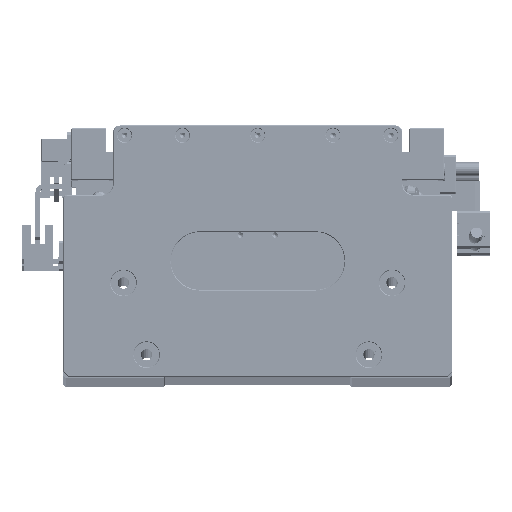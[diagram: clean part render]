
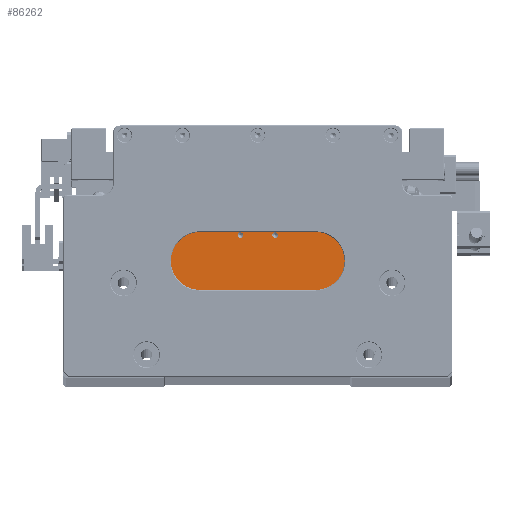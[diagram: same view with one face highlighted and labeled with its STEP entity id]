
A CAD part, top view. The second image highlights one B-rep face of the part: STEP entity #86262.
In plain terms, the highlighted planar face has unit normal (0, 0, 1).
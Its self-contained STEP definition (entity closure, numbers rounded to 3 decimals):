
#120 = CIRCLE ( 'NONE', #56360, 1.25 ) ;
#605 = VECTOR ( 'NONE', #124179, 1000. ) ;
#1725 = CARTESIAN_POINT ( 'NONE',  ( -7.5, -8., 125. ) ) ;
#2290 = CARTESIAN_POINT ( 'NONE',  ( 7.5, -8., 125. ) ) ;
#3051 = VECTOR ( 'NONE', #94974, 1000. ) ;
#3312 = VECTOR ( 'NONE', #62358, 1000. ) ;
#5899 = ORIENTED_EDGE ( 'NONE', *, *, #47204, .T. ) ;
#6287 = LINE ( 'NONE', #21202, #28946 ) ;
#7597 = ORIENTED_EDGE ( 'NONE', *, *, #22731, .T. ) ;
#8121 = AXIS2_PLACEMENT_3D ( 'NONE', #35578, #103109, #45264 ) ;
#10253 = LINE ( 'NONE', #32824, #61686 ) ;
#11376 = DIRECTION ( 'NONE',  ( 1., 0., 0. ) ) ;
#11957 = DIRECTION ( 'NONE',  ( 1., 0., 0. ) ) ;
#13341 = DIRECTION ( 'NONE',  ( -1., 0., 0. ) ) ;
#15612 = EDGE_CURVE ( 'NONE', #67199, #62093, #80677, .T. ) ;
#17113 = CARTESIAN_POINT ( 'NONE',  ( 33.5, 0., 125. ) ) ;
#17719 = CARTESIAN_POINT ( 'NONE',  ( 45., -40.2, 125. ) ) ;
#18581 = EDGE_CURVE ( 'NONE', #102344, #53130, #96677, .T. ) ;
#19438 = EDGE_LOOP ( 'NONE', ( #22868, #7597 ) ) ;
#19472 = VERTEX_POINT ( 'NONE', #28406 ) ;
#20161 = CARTESIAN_POINT ( 'NONE',  ( 0., 0., 125. ) ) ;
#20364 = VERTEX_POINT ( 'NONE', #110168 ) ;
#20408 = CARTESIAN_POINT ( 'NONE',  ( 33.5, 0., 125. ) ) ;
#21202 = CARTESIAN_POINT ( 'NONE',  ( -45., 0., 125. ) ) ;
#22731 = EDGE_CURVE ( 'NONE', #94127, #109042, #120, .T. ) ;
#22868 = ORIENTED_EDGE ( 'NONE', *, *, #91889, .T. ) ;
#23315 = CARTESIAN_POINT ( 'NONE',  ( 33.5, -8., 125. ) ) ;
#25307 = EDGE_LOOP ( 'NONE', ( #101523, #80724, #89405, #58498, #95656, #52148, #68981, #81650 ) ) ;
#26488 = DIRECTION ( 'NONE',  ( 0., 1., 0. ) ) ;
#27216 = DIRECTION ( 'NONE',  ( 0., 0., -1. ) ) ;
#27759 = VERTEX_POINT ( 'NONE', #23315 ) ;
#28406 = CARTESIAN_POINT ( 'NONE',  ( 8.75, -8., 125. ) ) ;
#28946 = VECTOR ( 'NONE', #88707, 1000. ) ;
#32824 = CARTESIAN_POINT ( 'NONE',  ( 0., -8., 125. ) ) ;
#34775 = CARTESIAN_POINT ( 'NONE',  ( -8.75, -8., 125. ) ) ;
#35578 = CARTESIAN_POINT ( 'NONE',  ( -7.5, -8., 125. ) ) ;
#35845 = ORIENTED_EDGE ( 'NONE', *, *, #36294, .T. ) ;
#36294 = EDGE_CURVE ( 'NONE', #20364, #19472, #91639, .T. ) ;
#36611 = DIRECTION ( 'NONE',  ( 0., 1., 0. ) ) ;
#39534 = FACE_OUTER_BOUND ( 'NONE', #25307, .T. ) ;
#40979 = CARTESIAN_POINT ( 'NONE',  ( -33.5, 0., 125. ) ) ;
#45264 = DIRECTION ( 'NONE',  ( 1., 0., 0. ) ) ;
#47204 = EDGE_CURVE ( 'NONE', #19472, #20364, #113312, .T. ) ;
#47777 = CARTESIAN_POINT ( 'NONE',  ( -45., -40.2, 125. ) ) ;
#48636 = CARTESIAN_POINT ( 'NONE',  ( 45., -8., 125. ) ) ;
#49288 = PLANE ( 'NONE',  #97160 ) ;
#51651 = LINE ( 'NONE', #52640, #3312 ) ;
#52148 = ORIENTED_EDGE ( 'NONE', *, *, #102769, .T. ) ;
#52640 = CARTESIAN_POINT ( 'NONE',  ( 0., -8., 125. ) ) ;
#53130 = VERTEX_POINT ( 'NONE', #47777 ) ;
#56360 = AXIS2_PLACEMENT_3D ( 'NONE', #1725, #69251, #11376 ) ;
#58498 = ORIENTED_EDGE ( 'NONE', *, *, #116172, .T. ) ;
#59009 = DIRECTION ( 'NONE',  ( 1., 0., 0. ) ) ;
#61686 = VECTOR ( 'NONE', #13341, 1000. ) ;
#62093 = VERTEX_POINT ( 'NONE', #71737 ) ;
#62358 = DIRECTION ( 'NONE',  ( -1., 0., 0. ) ) ;
#62680 = AXIS2_PLACEMENT_3D ( 'NONE', #85010, #27216, #94734 ) ;
#62994 = VECTOR ( 'NONE', #26488, 1000. ) ;
#64354 = AXIS2_PLACEMENT_3D ( 'NONE', #2290, #69809, #11957 ) ;
#64361 = VERTEX_POINT ( 'NONE', #86350 ) ;
#64896 = CARTESIAN_POINT ( 'NONE',  ( 45., 0., 125. ) ) ;
#66226 = CARTESIAN_POINT ( 'NONE',  ( 0., 0., 125. ) ) ;
#67199 = VERTEX_POINT ( 'NONE', #20408 ) ;
#68204 = FACE_BOUND ( 'NONE', #79154, .T. ) ;
#68779 = LINE ( 'NONE', #17113, #120269 ) ;
#68981 = ORIENTED_EDGE ( 'NONE', *, *, #15612, .T. ) ;
#69251 = DIRECTION ( 'NONE',  ( 0., 0., -1. ) ) ;
#69809 = DIRECTION ( 'NONE',  ( 0., 0., -1. ) ) ;
#71737 = CARTESIAN_POINT ( 'NONE',  ( -33.5, 0., 125. ) ) ;
#79154 = EDGE_LOOP ( 'NONE', ( #5899, #35845 ) ) ;
#79368 = DIRECTION ( 'NONE',  ( 0., -1., 0. ) ) ;
#80677 = LINE ( 'NONE', #66226, #605 ) ;
#80724 = ORIENTED_EDGE ( 'NONE', *, *, #83720, .T. ) ;
#81650 = ORIENTED_EDGE ( 'NONE', *, *, #96161, .T. ) ;
#83720 = EDGE_CURVE ( 'NONE', #64361, #53130, #6287, .T. ) ;
#85010 = CARTESIAN_POINT ( 'NONE',  ( 7.5, -8., 125. ) ) ;
#85846 = VERTEX_POINT ( 'NONE', #111079 ) ;
#86262 = ADVANCED_FACE ( 'NONE', ( #39534, #68204, #116600 ), #49288, .T. ) ;
#86350 = CARTESIAN_POINT ( 'NONE',  ( -45., -8., 125. ) ) ;
#88611 = LINE ( 'NONE', #64896, #62994 ) ;
#88707 = DIRECTION ( 'NONE',  ( 0., -1., 0. ) ) ;
#89405 = ORIENTED_EDGE ( 'NONE', *, *, #18581, .F. ) ;
#91639 = CIRCLE ( 'NONE', #62680, 1.25 ) ;
#91889 = EDGE_CURVE ( 'NONE', #109042, #94127, #109612, .T. ) ;
#94127 = VERTEX_POINT ( 'NONE', #34775 ) ;
#94734 = DIRECTION ( 'NONE',  ( 1., 0., 0. ) ) ;
#94974 = DIRECTION ( 'NONE',  ( -1., 0., 0. ) ) ;
#95656 = ORIENTED_EDGE ( 'NONE', *, *, #106310, .T. ) ;
#96161 = EDGE_CURVE ( 'NONE', #62093, #85846, #120454, .T. ) ;
#96677 = LINE ( 'NONE', #17719, #3051 ) ;
#97160 = AXIS2_PLACEMENT_3D ( 'NONE', #20161, #116876, #59009 ) ;
#100779 = EDGE_CURVE ( 'NONE', #85846, #64361, #10253, .T. ) ;
#101523 = ORIENTED_EDGE ( 'NONE', *, *, #100779, .T. ) ;
#102344 = VERTEX_POINT ( 'NONE', #107573 ) ;
#102769 = EDGE_CURVE ( 'NONE', #27759, #67199, #68779, .T. ) ;
#103109 = DIRECTION ( 'NONE',  ( 0., 0., -1. ) ) ;
#103831 = VERTEX_POINT ( 'NONE', #48636 ) ;
#106310 = EDGE_CURVE ( 'NONE', #103831, #27759, #51651, .T. ) ;
#107573 = CARTESIAN_POINT ( 'NONE',  ( 45., -40.2, 125. ) ) ;
#108263 = VECTOR ( 'NONE', #79368, 1000. ) ;
#109042 = VERTEX_POINT ( 'NONE', #115728 ) ;
#109612 = CIRCLE ( 'NONE', #8121, 1.25 ) ;
#110168 = CARTESIAN_POINT ( 'NONE',  ( 6.25, -8., 125. ) ) ;
#111079 = CARTESIAN_POINT ( 'NONE',  ( -33.5, -8., 125. ) ) ;
#113312 = CIRCLE ( 'NONE', #64354, 1.25 ) ;
#115728 = CARTESIAN_POINT ( 'NONE',  ( -6.25, -8., 125. ) ) ;
#116172 = EDGE_CURVE ( 'NONE', #102344, #103831, #88611, .T. ) ;
#116600 = FACE_BOUND ( 'NONE', #19438, .T. ) ;
#116876 = DIRECTION ( 'NONE',  ( 0., 0., 1. ) ) ;
#120269 = VECTOR ( 'NONE', #36611, 1000. ) ;
#120454 = LINE ( 'NONE', #40979, #108263 ) ;
#124179 = DIRECTION ( 'NONE',  ( -1., 0., 0. ) ) ;
